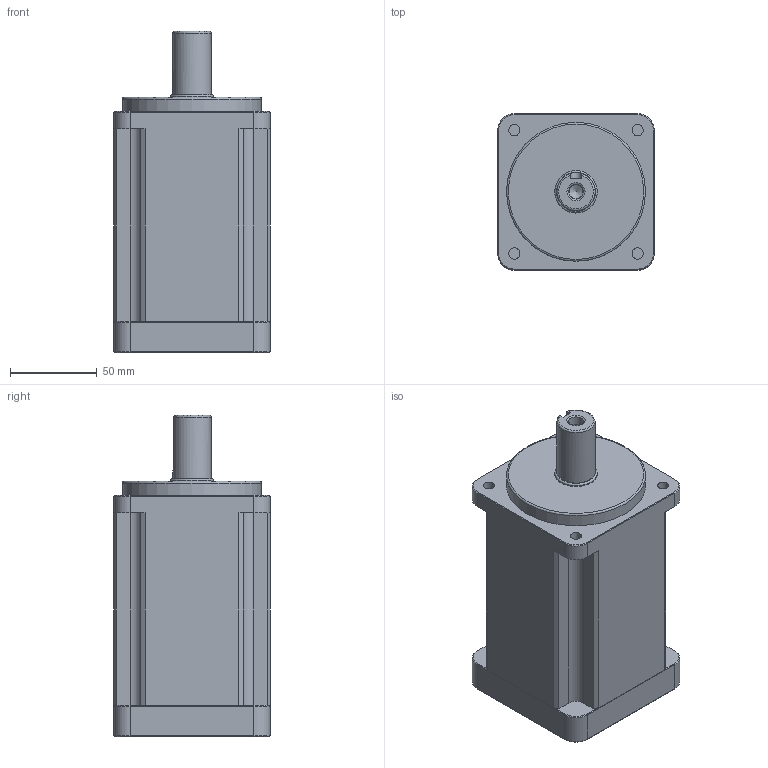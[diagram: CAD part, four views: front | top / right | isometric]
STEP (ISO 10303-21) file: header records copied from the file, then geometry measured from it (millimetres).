
FILE_DESCRIPTION((''),'2;1');
FILE_NAME('D:\유성\유성\도면\3D\2. 홈페이지용 3D 도면 (ipt)\외부도\SPI090 2단\SPI(H)090 SERIES (2 STAGE-KA TYPE)_Shrinkwrap_1.stp','2014-05-08T13:41:09',('nagyu'),(''),'Autodesk Inventor 2013','Autodesk Inventor 2013','');
FILE_SCHEMA(('AUTOMOTIVE_DESIGN { 1 0 10303 214 1 1 1 1 }'));
Length unit declared in the file: millimetre
Products named in the file (1): SPI(H)090 SERIES (2 STAGE-KA TYPE)_Shrinkwrap_1
Bounding box: 90 x 90 x 185 mm (x, y, z)
Volume: 1010133.7 mm3; surface area: 81336.6 mm2
Topology: 1 solids, 1 shells, 129 faces, 320 edges, 198 vertices
Faces by surface type: plane 62, cylinder 41, cone 23, torus 3
Full cylindrical faces by diameter (mm): 4.917 x4, 6.5 x4, 8 x1, 8.5 x1, 10 x1, 19 x1, 22 x2, 24.5 x1, 64 x1, 70 x1, 80 x1
Entity records: 3665 total; most frequent: CARTESIAN_POINT 666, DIRECTION 649, ORIENTED_EDGE 558, EDGE_CURVE 279, AXIS2_PLACEMENT_3D 245, VERTEX_POINT 188, EDGE_LOOP 177, VECTOR 159
